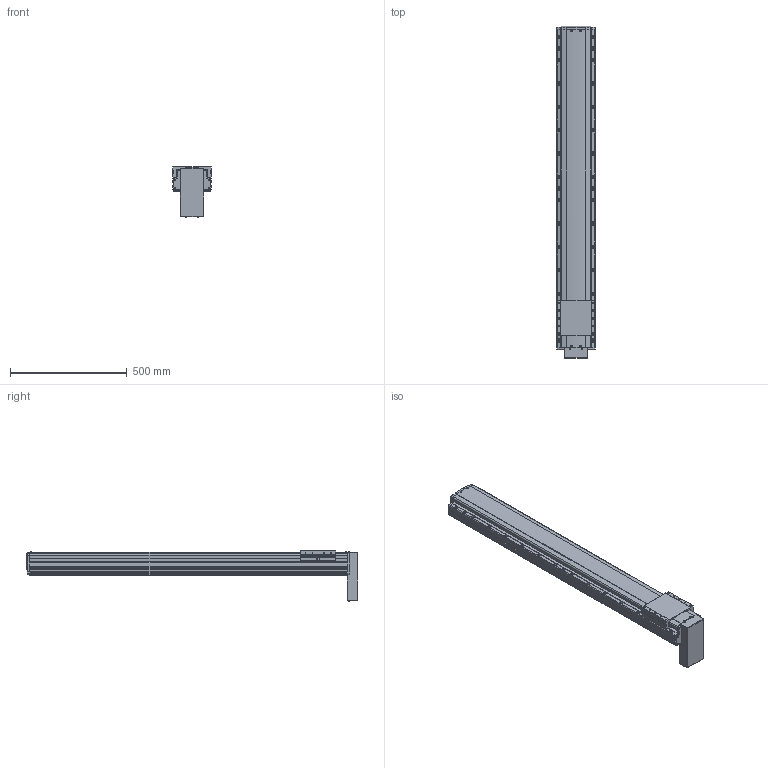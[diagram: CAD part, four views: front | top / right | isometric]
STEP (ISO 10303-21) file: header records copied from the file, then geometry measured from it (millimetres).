
FILE_DESCRIPTION(('STEP AP214'),'1');
FILE_NAME('Z:/Web/3D/PSA165/STP/PSA165-1100 (3D)/PSA165ㅁㅁ-1100PB.stp','2014-06-24T10:30:25',(' '),(' '),'Spatial InterOp 3D',' ',' ');
FILE_SCHEMA(('automotive_design'));
Length unit declared in the file: millimetre
Products named in the file (29): 스크루 : Round - M4.0 x 12.0; RRCV-PA160; BASE; 스크루 : Round - M4.0 x 10.0; RN15; Screw 20; SLIDE; FRCV; MTPL CV- PB; 스크루 : Round - M3.0 x 6.0; 1; 2
Bounding box: 165 x 1420.8 x 215.96 mm (x, y, z)
Volume: 19833667.9 mm3; surface area: 1219239.9 mm2
Topology: 29 solids, 29 shells, 2267 faces, 6084 edges, 3868 vertices
Faces by surface type: plane 1190, cylinder 754, cone 230, sphere 52, bspline 25, torus 16
Entity records: 92285 total; most frequent: CARTESIAN_POINT 16530, DIRECTION 12095, ORIENTED_EDGE 11844, EDGE_CURVE 5922, AXIS2_PLACEMENT_3D 4133, VERTEX_POINT 3868, LINE 3829, VECTOR 3829
